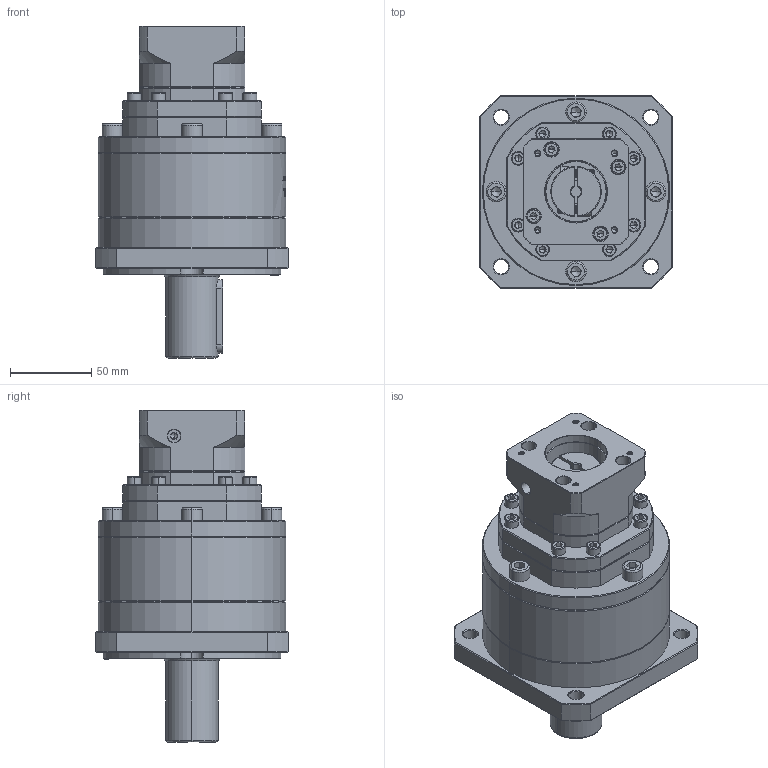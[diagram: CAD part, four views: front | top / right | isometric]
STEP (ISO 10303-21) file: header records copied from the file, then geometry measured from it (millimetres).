
FILE_DESCRIPTION (( 'STEP AP214' ), '1' );
FILE_NAME ('ZF120A-D32-L3-6.35-38.1-47.14X47.14-M4.step', '2023-03-07T15:56:11', ( '' ), ( 'Microsoft' ), 'SwSTEP 2.0', 'SolidWorks 2016', '' );
FILE_SCHEMA (( 'AUTOMOTIVE_DESIGN' ));
Length unit declared in the file: millimetre
Products named in the file (1): ZF120A-D32-L3-6.35-38.1-47.14X47.14-M4
Bounding box: 118 x 118 x 204 mm (x, y, z)
Volume: 1231276 mm3; surface area: 116687.5 mm2
Topology: 7 solids, 7 shells, 2073 faces, 5451 edges, 3481 vertices
Faces by surface type: plane 1002, cylinder 411, bspline 337, cone 301, torus 22
Entity records: 107117 total; most frequent: CARTESIAN_POINT 36900, ORIENTED_EDGE 10794, DIRECTION 8547, EDGE_CURVE 5397, VERTEX_POINT 3481, VECTOR 2963, LINE 2963, AXIS2_PLACEMENT_3D 2792
